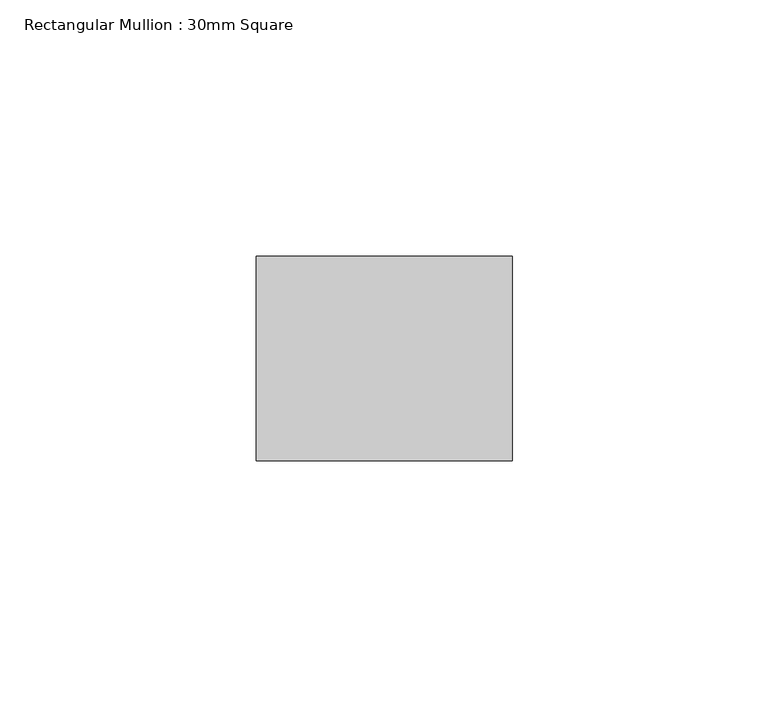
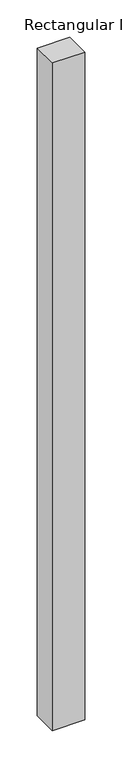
"""IFC4 building model written with IfcOpenShell, lengths in millimetres: member geometry, Rectangular Mullion : 30mm Square."""

import ifcopenshell
import ifcopenshell.guid

model = None  # the IFC model being written
_history = None  # IfcOwnerHistory: only IFC2X3 demands one
_inside = {}  # id of a spatial element -> (the spatial element, [elements in it])
_under = {}  # id of a project, library or spatial element -> (it, [spatial elements below it])
_declared = {}  # id of a project -> (the project, [libraries it declares])
_typed = {}  # id of a type object -> (the type object, [elements of that type])
_made_of = {}  # id of a material, layer set ... -> (it, [elements and type objects made of it])


def new_model(schema):
    """Start an empty IFC model of exactly this schema.

    Asked for "IFC4X3", IfcOpenShell would pick the latest addendum, in which some entities
    have other attributes; the version numbers below select the first issue.
    IFC2X3 requires an IfcOwnerHistory on every rooted entity: one is made here for all.
    """
    global model, _history
    if schema == "IFC4X3":
        model = ifcopenshell.file(schema_version=(4, 3, 0, 0))
    else:
        model = ifcopenshell.file(schema=schema)
    _inside.clear()
    _under.clear()
    _declared.clear()
    _typed.clear()
    _made_of.clear()
    _history = None
    if model.schema == "IFC2X3":
        org = make("IfcOrganization", Name="unknown")
        user = make(
            "IfcPersonAndOrganization",
            ThePerson=make("IfcPerson", FamilyName="unknown"),
            TheOrganization=org,
        )
        app = make(
            "IfcApplication",
            ApplicationDeveloper=org,
            Version="unknown",
            ApplicationFullName="unknown",
            ApplicationIdentifier="unknown",
        )
        _history = make(
            "IfcOwnerHistory",
            OwningUser=user,
            OwningApplication=app,
            ChangeAction="ADDED",
            CreationDate=0,
        )
    return model


def make(cls, **values):
    """One entity of the class cls with the attributes given. An attribute that is None is left unset."""
    return model.create_entity(
        cls, **{name: value for name, value in values.items() if value is not None}
    )


def rooted(cls, **values):
    """An entity with a GlobalId (a new one), such as an element, a storey or a relation."""
    return make(cls, GlobalId=ifcopenshell.guid.new(), OwnerHistory=_history, **values)


def si_unit(unit_type, name, prefix=None):
    """IfcSIUnit, for example si_unit("LENGTHUNIT", "METRE", prefix="MILLI")."""
    return make("IfcSIUnit", UnitType=unit_type, Prefix=prefix, Name=name)


def assignment(units):
    """IfcUnitAssignment: the units of a project."""
    return None if units is None else make("IfcUnitAssignment", Units=units)


def point(xyz):
    """IfcCartesianPoint."""
    return None if xyz is None else make("IfcCartesianPoint", Coordinates=xyz)


def direction(xyz):
    """IfcDirection."""
    return None if xyz is None else make("IfcDirection", DirectionRatios=xyz)


def frame(location, z_axis=None, x_axis=None):
    """IfcAxis2Placement3D, a coordinate frame: its origin and axes. An axis left out is left unset."""
    return make(
        "IfcAxis2Placement3D",
        Location=point(location),
        Axis=direction(z_axis),
        RefDirection=direction(x_axis),
    )


def origin():
    """The frame at (0, 0, 0) with its axes left unset."""
    return frame((0.0, 0.0, 0.0))


def place(relative_to, where):
    """IfcLocalPlacement: puts the frame where relative to a parent placement (None: the world)."""
    return make(
        "IfcLocalPlacement", PlacementRelTo=relative_to, RelativePlacement=where
    )


def context(
    kind, dimensions, precision=None, world=None, true_north=None, identifier=None
):
    """IfcGeometricRepresentationContext, for example the 3D "Model" context."""
    return make(
        "IfcGeometricRepresentationContext",
        ContextIdentifier=identifier,
        ContextType=kind,
        CoordinateSpaceDimension=dimensions,
        Precision=precision,
        WorldCoordinateSystem=world,
        TrueNorth=true_north,
    )


def project(units=None, contexts=None):
    """IfcProject with its units and contexts."""
    return rooted(
        "IfcProject",
        Name="project",
        RepresentationContexts=contexts,
        UnitsInContext=assignment(units),
    )


def spatial(cls, under=None, at=None, **own):
    """A site, building, storey or space (cls), placed at a placement, below another one or the project."""
    s = rooted(cls, ObjectPlacement=at, **own)
    if under is not None:
        _under.setdefault(under.id(), (under, []))[1].append(s)
    return s


def polyline(points):
    """IfcPolyline through the points."""
    return make("IfcPolyline", Points=[point(p) for p in points])


def outline(outer, holes=None, kind="AREA"):
    """IfcArbitraryClosedProfileDef: a profile drawn as a closed curve; with holes, ...WithVoids."""
    if holes is None:
        return make("IfcArbitraryClosedProfileDef", ProfileType=kind, OuterCurve=outer)
    return make(
        "IfcArbitraryProfileDefWithVoids",
        ProfileType=kind,
        OuterCurve=outer,
        InnerCurves=holes,
    )


def extrude(swept, where, along, depth):
    """IfcExtrudedAreaSolid: the profile swept, set in the frame where, extruded along a direction by depth."""
    return make(
        "IfcExtrudedAreaSolid",
        SweptArea=swept,
        Position=where,
        ExtrudedDirection=direction(along),
        Depth=depth,
    )


def shape(context_of_items, identifier, shape_type, items):
    """IfcShapeRepresentation: the items that make up one representation, for example the "Body"."""
    return make(
        "IfcShapeRepresentation",
        ContextOfItems=context_of_items,
        RepresentationIdentifier=identifier,
        RepresentationType=shape_type,
        Items=items,
    )


def source(mapping_origin, context_of_items, identifier, shape_type, items):
    """IfcRepresentationMap: a shape defined once, which mapped items show again and again."""
    return make(
        "IfcRepresentationMap",
        MappingOrigin=mapping_origin,
        MappedRepresentation=shape(context_of_items, identifier, shape_type, items),
    )


def transform(
    local_origin,
    x_axis=None,
    y_axis=None,
    z_axis=None,
    scale=None,
    scale2=None,
    scale3=None,
    uniform=True,
):
    """IfcCartesianTransformationOperator3D, or its non-uniform kind. x_axis, y_axis, z_axis: its Axis1, 2, 3."""
    if uniform:
        return make(
            "IfcCartesianTransformationOperator3D",
            Axis1=direction(x_axis),
            Axis2=direction(y_axis),
            LocalOrigin=point(local_origin),
            Scale=scale,
            Axis3=direction(z_axis),
        )
    return make(
        "IfcCartesianTransformationOperator3DnonUniform",
        Axis1=direction(x_axis),
        Axis2=direction(y_axis),
        LocalOrigin=point(local_origin),
        Scale=scale,
        Axis3=direction(z_axis),
        Scale2=scale2,
        Scale3=scale3,
    )


def mapped(mapping_source, mapping_target):
    """IfcMappedItem: shows the shape of a source again, moved by a transform."""
    return make(
        "IfcMappedItem", MappingSource=mapping_source, MappingTarget=mapping_target
    )


def made_of(thing, what):
    """Note that an element or type object is made of a material, layer set ...; save() writes the relation."""
    if what is not None:
        _made_of.setdefault(what.id(), (what, []))[1].append(thing)
    return thing


def element(
    cls,
    number,
    at=None,
    inside=None,
    cuts=None,
    type_object=None,
    material=None,
    context=None,
    identifier="Body",
    shape_type=None,
    held_by="IfcProductDefinitionShape",
    body=None,
    shapes=None,
    **own,
):
    """One element of the class cls, such as IfcWall. Its Tag is "e" and its number.

    at: its placement. inside: the storey or other place that contains it. cuts: it is an
    opening in that element (IfcRelVoidsElement). A single representation is given by context,
    identifier, shape_type and body (its items); several are given by shapes. held_by: the class
    of the entity that holds the representations. save() writes the other relations.
    """
    e = rooted(cls, Tag="e%d" % number, ObjectPlacement=at, **own)
    if body is not None:
        shapes = [shape(context, identifier, shape_type, body)]
    if shapes is not None:
        e.Representation = make(held_by, Representations=shapes)
    if inside is not None:
        _inside.setdefault(inside.id(), (inside, []))[1].append(e)
    if cuts is not None:
        rooted(
            "IfcRelVoidsElement", RelatingBuildingElement=cuts, RelatedOpeningElement=e
        )
    if type_object is not None:
        _typed.setdefault(type_object.id(), (type_object, []))[1].append(e)
    return made_of(e, material)


def aggregate(whole, parts):
    """IfcRelAggregates: a whole, such as a stair, and the parts it consists of."""
    return rooted("IfcRelAggregates", RelatingObject=whole, RelatedObjects=parts)


def save(model, path):
    """Write the relations noted so far, then the file.

    IfcRelAggregates (storeys below a building ...), IfcRelContainedInSpatialStructure (elements
    in a storey), IfcRelDefinesByType, IfcRelAssociatesMaterial and IfcRelDeclares: one each for
    every whole, place, type object, material and project.
    """
    for whole, parts in _under.values():
        aggregate(whole, parts)
    for where, things in _inside.values():
        rooted(
            "IfcRelContainedInSpatialStructure",
            RelatedElements=things,
            RelatingStructure=where,
        )
    for kind, things in _typed.values():
        rooted("IfcRelDefinesByType", RelatedObjects=things, RelatingType=kind)
    for what, things in _made_of.values():
        rooted("IfcRelAssociatesMaterial", RelatedObjects=things, RelatingMaterial=what)
    for by, libraries in _declared.values():
        rooted("IfcRelDeclares", RelatingContext=by, RelatedDefinitions=libraries)
    model.write(path)


def rectangular_mullion_30mm_square_d540a23e(model_context):
    return source(origin(), model_context, "Body", "SweptSolid", [
        extrude(outline(polyline([(0.0, 20.0), (0.0, -20.0), (-50.0, -20.0), (-50.0, 20.0), (0.0, 20.0)])), frame((0.0, 0.0, -1091.7444455), z_axis=(0.0, 0.0, 1.0), x_axis=(1.0, 0.0, 0.0)), (0.0, 0.0, 1.0), 1091.7444455),
    ])


if __name__ == "__main__":
    model = new_model("IFC4")
    model_context = context("Model", 3, world=origin())
    ifc_project = project(units=[si_unit("LENGTHUNIT", "METRE", prefix="MILLI")], contexts=[model_context])
    site = spatial("IfcSite", under=ifc_project)
    building = spatial("IfcBuilding", under=site)
    placement = place(None, origin())
    rectangular_mullion_30mm_square_shape = rectangular_mullion_30mm_square_d540a23e(model_context)
    element("IfcMember", 1, ObjectType="Rectangular Mullion : 30mm Square", at=placement, inside=building, context=model_context, shape_type="MappedRepresentation", body=[
        mapped(rectangular_mullion_30mm_square_shape, transform((0.0, 0.0, 0.0), x_axis=(1.0, 0.0, 0.0), y_axis=(0.0, 1.0, 0.0), z_axis=(0.0, 0.0, 1.0))),
    ])
    save(model, "model.ifc")
